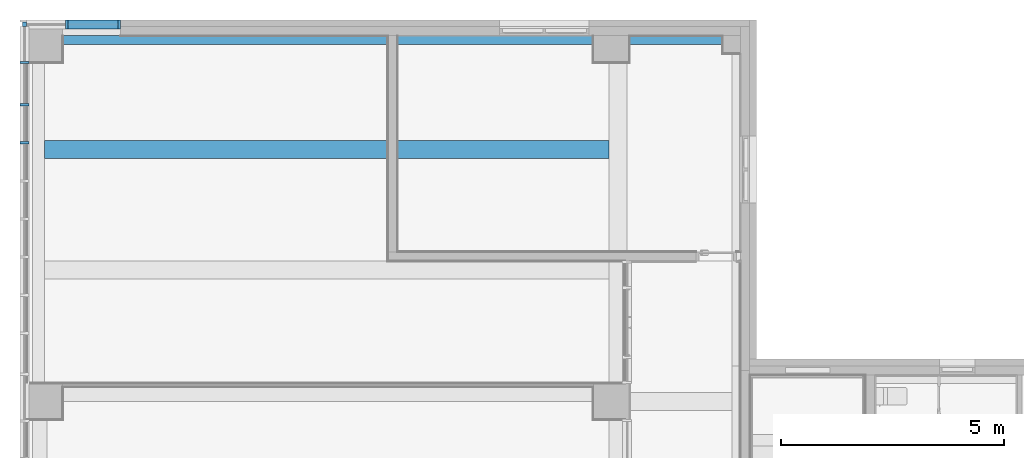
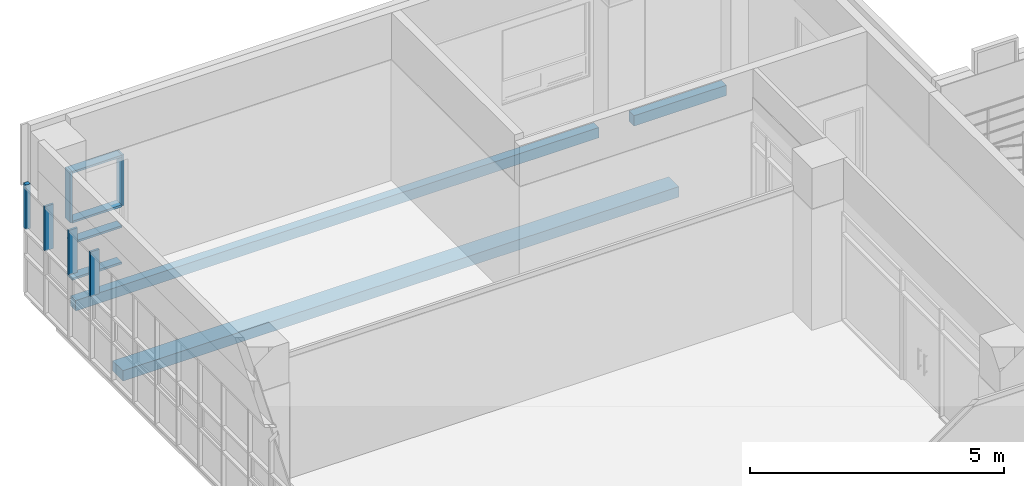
# One storey, part 10 of 76: 10 members, 3 beams, 2 elements without a shape of their own.
"""IFC2X3 building model written with IfcOpenShell, lengths in millimetres."""

from ifc_helpers import new_model, entity, si_unit, converted_unit, derived_unit, direction, frame, frame_2d, origin, origin_2d_with_axis, place, context, subcontext, project, spatial, rectangle, extrude, source, transform, mapped, material, type_object, type_shapes, element, aggregate, save


model = new_model("IFC2X3")

# Units and contexts
model_context = context("Model", 3, precision=0.01, world=origin(), true_north=direction((6.123031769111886e-17, 1.0)))
body_context = subcontext(model_context, "Body", "Model", "MODEL_VIEW")
ifc_project = project(units=[si_unit("LENGTHUNIT", "METRE", prefix="MILLI"), si_unit("AREAUNIT", "SQUARE_METRE"), si_unit("VOLUMEUNIT", "CUBIC_METRE"), converted_unit("PLANEANGLEUNIT", "DEGREE", entity("IfcRatioMeasure", 0.017453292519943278), si_unit("PLANEANGLEUNIT", "RADIAN"), dimensions=[0, 0, 0, 0, 0, 0, 0]), si_unit("MASSUNIT", "GRAM", prefix="KILO"), derived_unit("MASSDENSITYUNIT", [(si_unit("MASSUNIT", "GRAM", prefix="KILO"), 1), (si_unit("LENGTHUNIT", "METRE"), -3)]), derived_unit("MOMENTOFINERTIAUNIT", [(si_unit("LENGTHUNIT", "METRE"), 4)]), si_unit("TIMEUNIT", "SECOND"), si_unit("FREQUENCYUNIT", "HERTZ"), si_unit("THERMODYNAMICTEMPERATUREUNIT", "DEGREE_CELSIUS"), derived_unit("THERMALTRANSMITTANCEUNIT", [(si_unit("MASSUNIT", "GRAM", prefix="KILO"), 1), (si_unit("THERMODYNAMICTEMPERATUREUNIT", "KELVIN"), -1), (si_unit("TIMEUNIT", "SECOND"), -3)]), derived_unit("VOLUMETRICFLOWRATEUNIT", [(si_unit("LENGTHUNIT", "METRE"), 3), (si_unit("TIMEUNIT", "SECOND"), -1)]), derived_unit("MASSFLOWRATEUNIT", [(si_unit("MASSUNIT", "GRAM", prefix="KILO"), 1), (si_unit("TIMEUNIT", "SECOND"), -1)]), derived_unit("ROTATIONALFREQUENCYUNIT", [(si_unit("TIMEUNIT", "SECOND"), -1)]), si_unit("ELECTRICCURRENTUNIT", "AMPERE"), si_unit("ELECTRICVOLTAGEUNIT", "VOLT"), si_unit("POWERUNIT", "WATT"), si_unit("FORCEUNIT", "NEWTON", prefix="KILO"), si_unit("ILLUMINANCEUNIT", "LUX"), si_unit("LUMINOUSFLUXUNIT", "LUMEN"), si_unit("LUMINOUSINTENSITYUNIT", "CANDELA"), derived_unit("USERDEFINED", [(si_unit("MASSUNIT", "GRAM", prefix="KILO"), -1), (si_unit("LENGTHUNIT", "METRE"), -2), (si_unit("TIMEUNIT", "SECOND"), 3), (si_unit("LUMINOUSFLUXUNIT", "LUMEN"), 1)]), derived_unit("SOUNDPOWERUNIT", [(si_unit("MASSUNIT", "GRAM", prefix="KILO"), 1), (si_unit("LENGTHUNIT", "METRE"), 2), (si_unit("TIMEUNIT", "SECOND"), -3)]), derived_unit("SOUNDPRESSUREUNIT", [(si_unit("MASSUNIT", "GRAM", prefix="KILO"), 1), (si_unit("LENGTHUNIT", "METRE"), -1), (si_unit("TIMEUNIT", "SECOND"), -2)]), derived_unit("LINEARVELOCITYUNIT", [(si_unit("LENGTHUNIT", "METRE"), 1), (si_unit("TIMEUNIT", "SECOND"), -1)]), si_unit("PRESSUREUNIT", "PASCAL"), derived_unit("USERDEFINED", [(si_unit("LENGTHUNIT", "METRE"), -2), (si_unit("MASSUNIT", "GRAM", prefix="KILO"), 1), (si_unit("TIMEUNIT", "SECOND"), -2)]), derived_unit("LINEARFORCEUNIT", [(si_unit("MASSUNIT", "GRAM", prefix="KILO"), 1), (si_unit("LENGTHUNIT", "METRE"), 1), (si_unit("TIMEUNIT", "SECOND"), -2), (si_unit("LENGTHUNIT", "METRE"), -1)]), derived_unit("PLANARFORCEUNIT", [(si_unit("MASSUNIT", "GRAM", prefix="KILO"), 1), (si_unit("LENGTHUNIT", "METRE"), 1), (si_unit("TIMEUNIT", "SECOND"), -2), (si_unit("LENGTHUNIT", "METRE"), -2)])], contexts=[model_context])

# Site, building, storey
site_placement = place(None, frame((-14167.972527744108, -657.2125860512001, 0.0)))
site = spatial("IfcSite", under=ifc_project, at=site_placement, Name="Default", CompositionType="ELEMENT")
building_placement = place(site_placement, origin())
building = spatial("IfcBuilding", under=site, at=building_placement, Name="Sample Building", CompositionType="ELEMENT")
storey_placement = place(building_placement, frame((0.0, 0.0, 9300.0)))
storey = spatial("IfcBuildingStorey", under=building, at=storey_placement, Name="지상 3층", CompositionType="ELEMENT", Elevation=9300.000000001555)

# Curtain wall, members
curtain_wall_type = type_object("IfcCurtainWallType", Name="커튼월:CW112-스테인리스 스틸 커튼월", PredefinedType="NOTDEFINED")
curtain_wall_1_placement = place(storey_placement, frame((0.0, 0.0, -9300.0)))
curtain_wall_1 = element("IfcCurtainWall", 1, at=curtain_wall_1_placement, inside=storey, type_object=curtain_wall_type, Name="커튼월:CW112-스테인리스 스틸 커튼월", ObjectType="커튼월:CW112-스테인리스 스틸 커튼월")
ifc_material_1 = material(Name="<Unnamed>")
member_type_1 = type_object("IfcMemberType", Name="직사각형 멀리언:CW200-직사각형 멀리언 50x200mm", PredefinedType="MULLION", material=ifc_material_1)
shared_shape_1 = source(origin(), body_context, "Body", "SweptSolid", [
    extrude(rectangle(XDim=200.0, YDim=50.0, at=origin_2d_with_axis()), frame((-25.0, 0.0, -1124.6835731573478), z_axis=(0.0, 0.0, 1.0), x_axis=(0.0, -1.0, 0.0)), (0.0, 0.0, 1.0), 1124.6835731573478),
])
type_shapes(member_type_1, [shared_shape_1])
member_1_placement = place(curtain_wall_1_placement, frame((16117.339654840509, 35807.16229514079, 12000.0), z_axis=(1.0, 0.0, 0.0), x_axis=(0.0, 0.0, 1.0)))
member_1 = element("IfcMember", 2, at=member_1_placement, type_object=member_type_1, material=ifc_material_1, Name="직사각형 멀리언:CW200-직사각형 멀리언 50x200mm", ObjectType="직사각형 멀리언:CW200-직사각형 멀리언 50x200mm", context=body_context, shape_type="MappedRepresentation", body=[
    mapped(shared_shape_1, transform((0.0, 0.0, 0.0), scale=1.0)),
])
member_type_2 = type_object("IfcMemberType", Name="직사각형 멀리언:CW200-직사각형 멀리언 50x200mm", PredefinedType="MULLION", material=ifc_material_1)
shared_shape_2 = source(origin(), body_context, "Body", "SweptSolid", [
    extrude(rectangle(XDim=200.0, YDim=50.0, at=origin_2d_with_axis()), frame((-25.0, 0.0, -1220.0), z_axis=(0.0, 0.0, 1.0), x_axis=(0.0, -1.0, 0.0)), (0.0, 0.0, 1.0), 1220.0000000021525),
])
type_shapes(member_type_2, [shared_shape_2])
member_2_placement = place(curtain_wall_1_placement, frame((16167.339654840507, 35807.16229514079, 10780.0), z_axis=(0.0, 0.0, -1.0), x_axis=(1.0, 0.0, 0.0)))
member_2 = element("IfcMember", 3, at=member_2_placement, type_object=member_type_2, material=ifc_material_1, Name="직사각형 멀리언:CW200-직사각형 멀리언 50x200mm", ObjectType="직사각형 멀리언:CW200-직사각형 멀리언 50x200mm", context=body_context, shape_type="MappedRepresentation", body=[
    mapped(shared_shape_2, transform((0.0, 0.0, 0.0), scale=1.0)),
])
member_type_3 = type_object("IfcMemberType", Name="직사각형 멀리언:CW200-직사각형 멀리언 50x200mm", PredefinedType="MULLION", material=ifc_material_1)
shared_shape_3 = source(origin(), body_context, "Body", "SweptSolid", [
    extrude(rectangle(XDim=200.0, YDim=50.0, at=origin_2d_with_axis()), frame((-25.0, 0.0, -1124.683573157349), z_axis=(0.0, 0.0, 1.0), x_axis=(0.0, -1.0, 0.0)), (0.0, 0.0, 1.0), 1124.683573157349),
])
type_shapes(member_type_3, [shared_shape_3])
member_3_placement = place(curtain_wall_1_placement, frame((14992.65608168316, 35807.1622951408, 9380.0), z_axis=(-1.0, 0.0, 0.0), x_axis=(0.0, 0.0, -1.0)))
member_3 = element("IfcMember", 4, at=member_3_placement, type_object=member_type_3, material=ifc_material_1, Name="직사각형 멀리언:CW200-직사각형 멀리언 50x200mm", ObjectType="직사각형 멀리언:CW200-직사각형 멀리언 50x200mm", context=body_context, shape_type="MappedRepresentation", body=[
    mapped(shared_shape_3, transform((0.0, 0.0, 0.0), scale=1.0)),
])
member_type_4 = type_object("IfcMemberType", Name="직사각형 멀리언:CW200-직사각형 멀리언 50x200mm", PredefinedType="MULLION", material=ifc_material_1)
shared_shape_4 = source(origin(), body_context, "Body", "SweptSolid", [
    extrude(rectangle(XDim=200.0, YDim=50.0, at=origin_2d_with_axis()), frame((0.0, 0.0, -1124.6835731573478), z_axis=(0.0, 0.0, 1.0), x_axis=(0.0, -1.0, 0.0)), (0.0, 0.0, 1.0), 1124.6835731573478),
])
type_shapes(member_type_4, [shared_shape_4])
member_4_placement = place(curtain_wall_1_placement, frame((16117.339654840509, 35807.16229514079, 10280.0), z_axis=(1.0, 0.0, 0.0), x_axis=(0.0, 0.0, 1.0)))
member_4 = element("IfcMember", 5, at=member_4_placement, type_object=member_type_4, material=ifc_material_1, Name="직사각형 멀리언:CW200-직사각형 멀리언 50x200mm", ObjectType="직사각형 멀리언:CW200-직사각형 멀리언 50x200mm", context=body_context, shape_type="MappedRepresentation", body=[
    mapped(shared_shape_4, transform((0.0, 0.0, 0.0), scale=1.0)),
])
member_5_placement = place(curtain_wall_1_placement, frame((16117.339654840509, 35807.16229514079, 10780.0), z_axis=(1.0, 0.0, 0.0), x_axis=(0.0, 0.0, 1.0)))
member_5 = element("IfcMember", 6, at=member_5_placement, type_object=member_type_4, material=ifc_material_1, Name="직사각형 멀리언:CW200-직사각형 멀리언 50x200mm", ObjectType="직사각형 멀리언:CW200-직사각형 멀리언 50x200mm", context=body_context, shape_type="MappedRepresentation", body=[
    mapped(shared_shape_4, transform((0.0, 0.0, 0.0), scale=1.0)),
])
member_type_5 = type_object("IfcMemberType", Name="직사각형 멀리언:CW200-직사각형 멀리언 50x200mm", PredefinedType="MULLION", material=ifc_material_1)
shared_shape_5 = source(origin(), body_context, "Body", "SweptSolid", [
    extrude(rectangle(XDim=200.0, YDim=50.0, at=origin_2d_with_axis()), frame((0.0, 0.0, -1220.0), z_axis=(0.0, 0.0, 1.0), x_axis=(0.0, -1.0, 0.0)), (0.0, 0.0, 1.0), 1220.0000000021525),
])
type_shapes(member_type_5, [shared_shape_5])
member_6_placement = place(curtain_wall_1_placement, frame((14967.656081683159, 35807.1622951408, 10780.0), z_axis=(0.0, 0.0, -1.0), x_axis=(1.0, 0.0, 0.0)))
member_6 = element("IfcMember", 7, at=member_6_placement, type_object=member_type_5, material=ifc_material_1, Name="직사각형 멀리언:CW200-직사각형 멀리언 50x200mm", ObjectType="직사각형 멀리언:CW200-직사각형 멀리언 50x200mm", context=body_context, shape_type="MappedRepresentation", body=[
    mapped(shared_shape_5, transform((0.0, 0.0, 0.0), scale=1.0)),
])
aggregate(curtain_wall_1, [member_1, member_2, member_3, member_4, member_5, member_6])

curtain_wall_2_placement = place(storey_placement, frame((0.0, 0.0, -9300.0)))
curtain_wall_2 = element("IfcCurtainWall", 8, at=curtain_wall_2_placement, inside=storey, type_object=curtain_wall_type, Name="커튼월:CW112-스테인리스 스틸 커튼월", ObjectType="커튼월:CW112-스테인리스 스틸 커튼월")
member_type_6 = type_object("IfcMemberType", Name="직사각형 멀리언:CW200-직사각형 멀리언 100 x 100mm", PredefinedType="MULLION", material=ifc_material_1)
shared_shape_6 = source(origin(), body_context, "Body", "SweptSolid", [
    extrude(rectangle(XDim=100.0, YDim=100.0, at=origin_2d_with_axis()), frame((-50.0, 0.0, -1070.0), z_axis=(0.0, 0.0, 1.0), x_axis=(0.0, -1.0, 0.0)), (0.0, 0.0, 1.0), 1070.000000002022),
])
type_shapes(member_type_6, [shared_shape_6])
member_7_placement = place(curtain_wall_2_placement, frame((14018.58790484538, 35857.47319224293, 12000.0), z_axis=(0.0, 0.0, 1.0), x_axis=(0.0, 1.0, 0.0)))
member_7 = element("IfcMember", 9, at=member_7_placement, type_object=member_type_6, material=ifc_material_1, Name="직사각형 멀리언:CW200-직사각형 멀리언 100 x 100mm", ObjectType="직사각형 멀리언:CW200-직사각형 멀리언 100 x 100mm", context=body_context, shape_type="MappedRepresentation", body=[
    mapped(shared_shape_6, transform((0.0, 0.0, 0.0), scale=1.0)),
])
member_type_7 = type_object("IfcMemberType", Name="직사각형 멀리언:CW200-직사각형 멀리언 50x200mm", PredefinedType="MULLION", material=ifc_material_1)
shared_shape_7 = source(origin(), body_context, "Body", "SweptSolid", [
    extrude(rectangle(XDim=200.0, YDim=50.0, at=origin_2d_with_axis()), frame((0.0, 0.0, -1070.0), z_axis=(0.0, 0.0, 1.0), x_axis=(0.0, -1.0, 0.0)), (0.0, 0.0, 1.0), 1070.000000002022),
])
type_shapes(member_type_7, [shared_shape_7])
member_8_placement = place(curtain_wall_2_placement, frame((14018.587904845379, 34953.81770709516, 10930.0), z_axis=(0.0, 0.0, -1.0), x_axis=(0.0, -1.0, 0.0)))
member_8 = element("IfcMember", 10, at=member_8_placement, type_object=member_type_7, material=ifc_material_1, Name="직사각형 멀리언:CW200-직사각형 멀리언 50x200mm", ObjectType="직사각형 멀리언:CW200-직사각형 멀리언 50x200mm", context=body_context, shape_type="MappedRepresentation", body=[
    mapped(shared_shape_7, transform((0.0, 0.0, 0.0), scale=1.0)),
])
member_9_placement = place(curtain_wall_2_placement, frame((14018.587904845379, 34009.81770709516, 10930.0), z_axis=(0.0, 0.0, -1.0), x_axis=(0.0, -1.0, 0.0)))
member_9 = element("IfcMember", 11, at=member_9_placement, type_object=member_type_7, material=ifc_material_1, Name="직사각형 멀리언:CW200-직사각형 멀리언 50x200mm", ObjectType="직사각형 멀리언:CW200-직사각형 멀리언 50x200mm", context=body_context, shape_type="MappedRepresentation", body=[
    mapped(shared_shape_7, transform((0.0, 0.0, 0.0), scale=1.0)),
])
member_10_placement = place(curtain_wall_2_placement, frame((14018.587904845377, 33155.81770709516, 10930.0), z_axis=(0.0, 0.0, -1.0), x_axis=(0.0, -1.0, 0.0)))
member_10 = element("IfcMember", 12, at=member_10_placement, type_object=member_type_7, material=ifc_material_1, Name="직사각형 멀리언:CW200-직사각형 멀리언 50x200mm", ObjectType="직사각형 멀리언:CW200-직사각형 멀리언 50x200mm", context=body_context, shape_type="MappedRepresentation", body=[
    mapped(shared_shape_7, transform((0.0, 0.0, 0.0), scale=1.0)),
])
aggregate(curtain_wall_2, [member_7, member_8, member_9, member_10])

# Beams
ifc_material_2 = material(Name="KBIMS-콘크리트")
beam_type_1 = type_object("IfcBeamType", Name="BM111-철근콘크리트구조 보:BM110-철근 콘크리트구조 보_400 x 400_2-10G7", PredefinedType="NOTDEFINED")
beam_1_placement = place(storey_placement, frame((14867.981136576, 35557.21260419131, 0.0)))
element("IfcBeam", 13, at=beam_1_placement, inside=storey, type_object=beam_type_1, material=ifc_material_2, Name="BM111-철근콘크리트구조 보:BM110-철근 콘크리트구조 보_400 x 400_2-10G7", ObjectType="BM111-철근콘크리트구조 보:BM110-철근 콘크리트구조 보_400 x 400_2-10G7", context=body_context, shape_type="SweptSolid", body=[
    extrude(rectangle(XDim=250.00000000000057, YDim=199.99969094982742, at=frame_2d((5.400124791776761e-13, 4.334310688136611e-12), x_axis=(1.0, 0.0))), frame((0.0, -100.00015452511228, -275.0), z_axis=(1.0, 0.0, 0.0), x_axis=(0.0, 0.0, -1.0)), (0.0, 0.0, 1.0), 11899.974005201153),
])
beam_type_2 = type_object("IfcBeamType", Name="BM111-철근콘크리트구조 보:BM110-철근 콘크리트구조 보_400 x 400_2-10G8", PredefinedType="NOTDEFINED")
beam_2_placement = place(storey_placement, frame((29667.93775580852, 35557.21260419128, 0.0), z_axis=(0.0, 0.0, 1.0), x_axis=(-1.0, 0.0, 0.0)))
element("IfcBeam", 14, at=beam_2_placement, inside=storey, type_object=beam_type_2, material=ifc_material_2, Name="BM111-철근콘크리트구조 보:BM110-철근 콘크리트구조 보_400 x 400_2-10G8", ObjectType="BM111-철근콘크리트구조 보:BM110-철근 콘크리트구조 보_400 x 400_2-10G8", context=body_context, shape_type="SweptSolid", body=[
    extrude(rectangle(XDim=250.00000000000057, YDim=199.99969094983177, at=frame_2d((5.471179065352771e-13, 4.32720526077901e-12), x_axis=(1.0, 0.0))), frame((0.0, 100.00015452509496, -275.0), z_axis=(1.0, 0.0, 0.0), x_axis=(0.0, 0.0, -1.0)), (0.0, 0.0, 1.0), 2099.9826140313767),
])
beam_type_3 = type_object("IfcBeamType", Name="BM111-철근콘크리트구조 보:BM110-철근 콘크리트구조 보_400 x 400_2-10B3", PredefinedType="NOTDEFINED")
beam_3_placement = place(storey_placement, frame((14267.95508672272, 33007.21247892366, 0.0)))
element("IfcBeam", 15, at=beam_3_placement, inside=storey, type_object=beam_type_3, material=ifc_material_2, Name="BM111-철근콘크리트구조 보:BM110-철근 콘크리트구조 보_400 x 400_2-10B3", ObjectType="BM111-철근콘크리트구조 보:BM110-철근 콘크리트구조 보_400 x 400_2-10B3", context=body_context, shape_type="SweptSolid", body=[
    extrude(rectangle(XDim=250.00000000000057, YDim=400.0000000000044, at=frame_2d((5.400124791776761e-13, 0.0), x_axis=(1.0, 0.0))), frame((200.0, 0.0, -275.0), z_axis=(1.0, 0.0, 0.0), x_axis=(0.0, 0.0, -1.0)), (0.0, 0.0, 1.0), 12650.10671334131),
])

save(model, "model.ifc")
